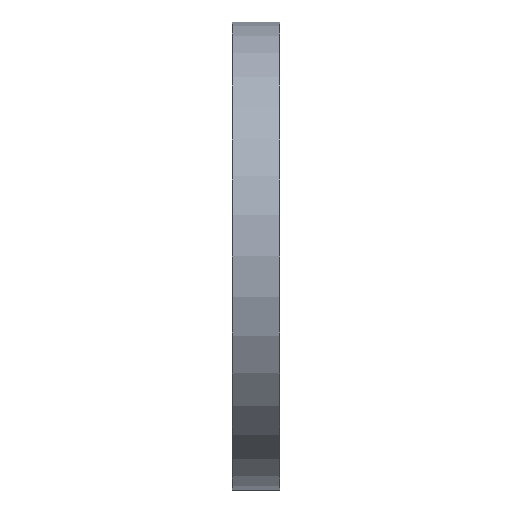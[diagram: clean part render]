
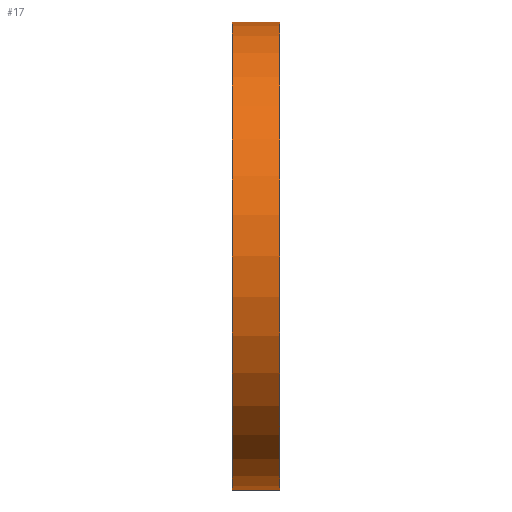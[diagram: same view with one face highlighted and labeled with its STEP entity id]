
A CAD part, front view. The second image highlights one B-rep face of the part: STEP entity #17.
In plain terms, the highlighted cylindrical face has radius 49 mm (diameter 98 mm), a full revolution.
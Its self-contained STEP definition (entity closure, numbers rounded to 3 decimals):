
#17 = ADVANCED_FACE('',(#18),#32,.T.);
#18 = FACE_BOUND('',#19,.F.);
#19 = EDGE_LOOP('',(#20,#50,#77,#78));
#20 = ORIENTED_EDGE('',*,*,#21,.T.);
#21 = EDGE_CURVE('',#22,#24,#26,.T.);
#22 = VERTEX_POINT('',#23);
#23 = CARTESIAN_POINT('',(-5.,49.,0.));
#24 = VERTEX_POINT('',#25);
#25 = CARTESIAN_POINT('',(5.,49.,0.));
#26 = SEAM_CURVE('',#27,(#31,#43),.PCURVE_S1.);
#27 = LINE('',#28,#29);
#28 = CARTESIAN_POINT('',(-5.,49.,0.));
#29 = VECTOR('',#30,1.);
#30 = DIRECTION('',(1.,0.,0.));
#31 = PCURVE('',#32,#37);
#32 = CYLINDRICAL_SURFACE('',#33,49.);
#33 = AXIS2_PLACEMENT_3D('',#34,#35,#36);
#34 = CARTESIAN_POINT('',(-5.,0.,0.));
#35 = DIRECTION('',(-1.,-0.,-0.));
#36 = DIRECTION('',(0.,1.,0.));
#37 = DEFINITIONAL_REPRESENTATION('',(#38),#42);
#38 = LINE('',#39,#40);
#39 = CARTESIAN_POINT('',(-0.,0.));
#40 = VECTOR('',#41,1.);
#41 = DIRECTION('',(-0.,-1.));
#42 = ( GEOMETRIC_REPRESENTATION_CONTEXT(2) 
PARAMETRIC_REPRESENTATION_CONTEXT() REPRESENTATION_CONTEXT('2D SPACE',''
  ) );
#43 = PCURVE('',#32,#44);
#44 = DEFINITIONAL_REPRESENTATION('',(#45),#49);
#45 = LINE('',#46,#47);
#46 = CARTESIAN_POINT('',(-6.283,0.));
#47 = VECTOR('',#48,1.);
#48 = DIRECTION('',(-0.,-1.));
#49 = ( GEOMETRIC_REPRESENTATION_CONTEXT(2) 
PARAMETRIC_REPRESENTATION_CONTEXT() REPRESENTATION_CONTEXT('2D SPACE',''
  ) );
#50 = ORIENTED_EDGE('',*,*,#51,.T.);
#51 = EDGE_CURVE('',#24,#24,#52,.T.);
#52 = SURFACE_CURVE('',#53,(#58,#65),.PCURVE_S1.);
#53 = CIRCLE('',#54,49.);
#54 = AXIS2_PLACEMENT_3D('',#55,#56,#57);
#55 = CARTESIAN_POINT('',(5.,0.,0.));
#56 = DIRECTION('',(1.,0.,0.));
#57 = DIRECTION('',(0.,1.,0.));
#58 = PCURVE('',#32,#59);
#59 = DEFINITIONAL_REPRESENTATION('',(#60),#64);
#60 = LINE('',#61,#62);
#61 = CARTESIAN_POINT('',(-0.,-10.));
#62 = VECTOR('',#63,1.);
#63 = DIRECTION('',(-1.,0.));
#64 = ( GEOMETRIC_REPRESENTATION_CONTEXT(2) 
PARAMETRIC_REPRESENTATION_CONTEXT() REPRESENTATION_CONTEXT('2D SPACE',''
  ) );
#65 = PCURVE('',#66,#71);
#66 = PLANE('',#67);
#67 = AXIS2_PLACEMENT_3D('',#68,#69,#70);
#68 = CARTESIAN_POINT('',(5.,0.,0.));
#69 = DIRECTION('',(1.,0.,0.));
#70 = DIRECTION('',(-0.,0.,1.));
#71 = DEFINITIONAL_REPRESENTATION('',(#72),#76);
#72 = CIRCLE('',#73,49.);
#73 = AXIS2_PLACEMENT_2D('',#74,#75);
#74 = CARTESIAN_POINT('',(0.,0.));
#75 = DIRECTION('',(0.,-1.));
#76 = ( GEOMETRIC_REPRESENTATION_CONTEXT(2) 
PARAMETRIC_REPRESENTATION_CONTEXT() REPRESENTATION_CONTEXT('2D SPACE',''
  ) );
#77 = ORIENTED_EDGE('',*,*,#21,.F.);
#78 = ORIENTED_EDGE('',*,*,#79,.F.);
#79 = EDGE_CURVE('',#22,#22,#80,.T.);
#80 = SURFACE_CURVE('',#81,(#86,#93),.PCURVE_S1.);
#81 = CIRCLE('',#82,49.);
#82 = AXIS2_PLACEMENT_3D('',#83,#84,#85);
#83 = CARTESIAN_POINT('',(-5.,0.,0.));
#84 = DIRECTION('',(1.,0.,0.));
#85 = DIRECTION('',(0.,1.,0.));
#86 = PCURVE('',#32,#87);
#87 = DEFINITIONAL_REPRESENTATION('',(#88),#92);
#88 = LINE('',#89,#90);
#89 = CARTESIAN_POINT('',(-0.,0.));
#90 = VECTOR('',#91,1.);
#91 = DIRECTION('',(-1.,0.));
#92 = ( GEOMETRIC_REPRESENTATION_CONTEXT(2) 
PARAMETRIC_REPRESENTATION_CONTEXT() REPRESENTATION_CONTEXT('2D SPACE',''
  ) );
#93 = PCURVE('',#94,#99);
#94 = PLANE('',#95);
#95 = AXIS2_PLACEMENT_3D('',#96,#97,#98);
#96 = CARTESIAN_POINT('',(-5.,0.,0.));
#97 = DIRECTION('',(1.,0.,0.));
#98 = DIRECTION('',(-0.,0.,1.));
#99 = DEFINITIONAL_REPRESENTATION('',(#100),#104);
#100 = CIRCLE('',#101,49.);
#101 = AXIS2_PLACEMENT_2D('',#102,#103);
#102 = CARTESIAN_POINT('',(0.,0.));
#103 = DIRECTION('',(0.,-1.));
#104 = ( GEOMETRIC_REPRESENTATION_CONTEXT(2) 
PARAMETRIC_REPRESENTATION_CONTEXT() REPRESENTATION_CONTEXT('2D SPACE',''
  ) );
